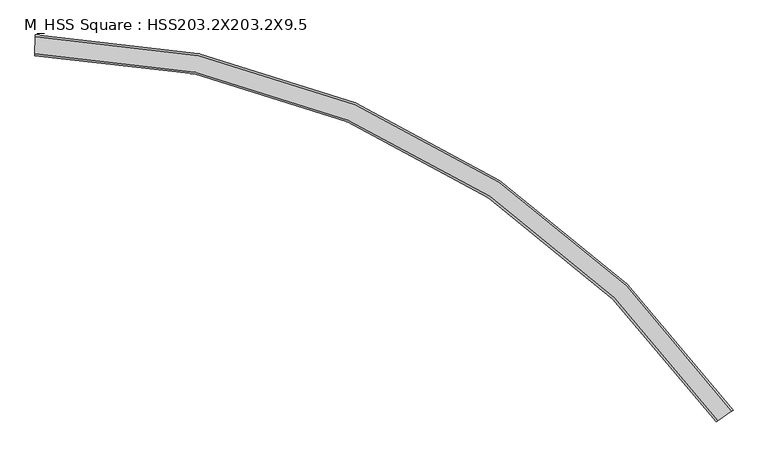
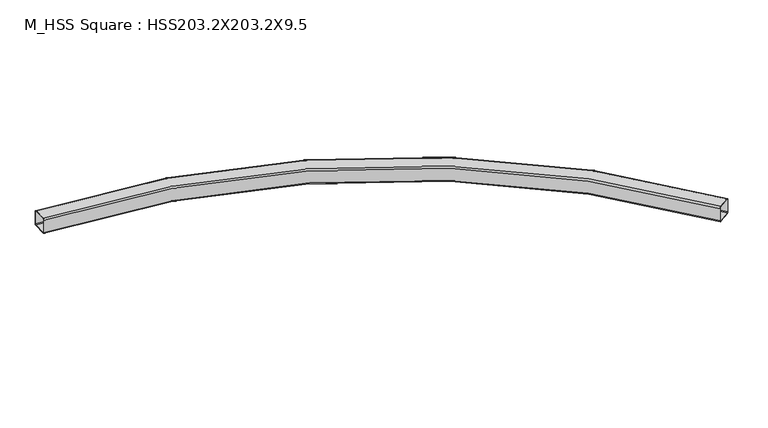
"""IFC4 building model written with IfcOpenShell, lengths in millimetres: beam geometry, M_HSS Square : HSS203.2X203.2X9.5."""

from ifc_helpers import new_model, si_unit, point, frame, origin, place, context, project, spatial, polyline, circle_curve, ellipse_curve, trimmed, source, transform, mapped, element, save
from ifc_brep_helpers import plane_surface, cylinder_surface, revolved_surface, advanced_brep


def m_hss_square_hss203_2x203_2x9_5_63507dff(model_context):
    return source(origin(), model_context, "Body", "AdvancedBrep", [
        advanced_brep(
        [(163.3933722, -103.1077059, 82.44), (163.7684169, -84.0513961, 101.5), (167.0127699, 80.7966811, 101.5), (167.3878146, 99.8529909, 82.44), (167.3878146, 99.8529909, -82.44), (167.0127699, 80.7966811, -101.5), (163.7684169, -84.0513961, -101.5), (163.3933722, -103.1077059, -82.44), (167.0127699, 80.7966811, 91.97), (163.7684169, -84.0513961, 91.97), (163.5808946, -93.579551, 82.44), (163.5808946, -93.579551, -82.44), (163.7684169, -84.0513961, -91.97), (167.0127699, 80.7966811, -91.97), (167.2002922, 90.324836, -82.44), (167.2002922, 90.324836, 82.44), (6834.7945176, -3689.5469851, 82.44), (6834.7945176, -3689.5469851, -82.44), (6850.482751, -3678.7228024, -101.5), (6986.1950242, -3585.0873747, -101.5), (7001.8832577, -3574.263192, -82.44), (7001.8832577, -3574.263192, 82.44), (6986.1950242, -3585.0873747, 101.5), (6850.482751, -3678.7228024, 101.5), (6986.1950242, -3585.0873747, 91.97), (6994.0391409, -3579.6752834, 82.44), (6994.0391409, -3579.6752834, -82.44), (6986.1950242, -3585.0873747, -91.97), (6850.482751, -3678.7228024, -91.97), (6842.6386343, -3684.1348938, -82.44), (6842.6386343, -3684.1348938, 82.44), (6850.482751, -3678.7228024, 91.97)],
        [
            (0, 1, circle_curve(frame((163.7684169, -84.0513961, 82.44), z_axis=(-0.9998063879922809, 0.019677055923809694, 0.0), x_axis=(0.019677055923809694, 0.9998063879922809, 0.0)), 19.06)),
            (1, 2),
            (2, 3, circle_curve(frame((167.0127699, 80.7966811, 82.44), z_axis=(-0.9998063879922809, 0.019677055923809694, 0.0), x_axis=(0.019677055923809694, 0.9998063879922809, 0.0)), 19.06)),
            (3, 4),
            (4, 5, circle_curve(frame((167.0127699, 80.7966811, -82.44), z_axis=(-0.9998063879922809, 0.019677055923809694, 0.0), x_axis=(0.019677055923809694, 0.9998063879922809, 0.0)), 19.06)),
            (5, 6),
            (6, 7, circle_curve(frame((163.7684169, -84.0513961, -82.44), z_axis=(-0.9998063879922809, 0.019677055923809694, 0.0), x_axis=(0.019677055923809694, 0.9998063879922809, 0.0)), 19.06)),
            (7, 0),
            (8, 9),
            (9, 10, circle_curve(frame((163.7684169, -84.0513961, 82.44), z_axis=(0.9998063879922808, -0.019677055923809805, 0.0), x_axis=(0.019677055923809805, 0.9998063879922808, 0.0)), 9.53)),
            (10, 11),
            (11, 12, circle_curve(frame((163.7684169, -84.0513961, -82.44), z_axis=(0.9998063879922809, -0.019677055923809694, 0.0), x_axis=(0.019677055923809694, 0.9998063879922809, 0.0)), 9.53)),
            (12, 13),
            (13, 14, circle_curve(frame((167.0127699, 80.7966811, -82.44), z_axis=(0.9998063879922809, -0.019677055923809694, 0.0), x_axis=(0.019677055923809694, 0.9998063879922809, 0.0)), 9.53)),
            (14, 15),
            (15, 8, circle_curve(frame((167.0127699, 80.7966811, 82.44), z_axis=(0.9998063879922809, -0.019677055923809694, 0.0), x_axis=(0.019677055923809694, 0.9998063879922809, 0.0)), 9.53)),
            (16, 17),
            (17, 18, circle_curve(frame((6850.482751, -3678.7228024, -82.44), z_axis=(0.5679004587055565, -0.8230972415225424, 0.0), x_axis=(0.8230972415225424, 0.5679004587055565, 0.0)), 19.06)),
            (18, 19),
            (19, 20, circle_curve(frame((6986.1950242, -3585.0873747, -82.44), z_axis=(0.5679004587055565, -0.8230972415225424, 0.0), x_axis=(0.8230972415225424, 0.5679004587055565, 0.0)), 19.06)),
            (20, 21),
            (21, 22, circle_curve(frame((6986.1950242, -3585.0873747, 82.44), z_axis=(0.5679004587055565, -0.8230972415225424, 0.0), x_axis=(0.8230972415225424, 0.5679004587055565, 0.0)), 19.06)),
            (22, 23),
            (23, 16, circle_curve(frame((6850.482751, -3678.7228024, 82.44), z_axis=(0.5679004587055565, -0.8230972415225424, 0.0), x_axis=(0.8230972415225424, 0.5679004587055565, 0.0)), 19.06)),
            (24, 25, circle_curve(frame((6986.1950242, -3585.0873747, 82.44), z_axis=(-0.5679004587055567, 0.8230972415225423, 0.0), x_axis=(0.8230972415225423, 0.5679004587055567, 0.0)), 9.53)),
            (25, 26),
            (26, 27, circle_curve(frame((6986.1950242, -3585.0873747, -82.44), z_axis=(-0.5679004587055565, 0.8230972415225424, 0.0), x_axis=(0.8230972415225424, 0.5679004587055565, 0.0)), 9.53)),
            (27, 28),
            (28, 29, circle_curve(frame((6850.482751, -3678.7228024, -82.44), z_axis=(-0.5679004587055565, 0.8230972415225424, 0.0), x_axis=(0.8230972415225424, 0.5679004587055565, 0.0)), 9.53)),
            (29, 30),
            (30, 31, circle_curve(frame((6850.482751, -3678.7228024, 82.44), z_axis=(-0.5679004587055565, 0.8230972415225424, 0.0), x_axis=(0.8230972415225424, 0.5679004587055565, 0.0)), 9.53)),
            (31, 24),
            (0, 16, circle_curve(frame((0.0, -8405.2509699, 82.44), z_axis=(0.0, 0.0, -1.0), x_axis=(-0.5530174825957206, 0.8331696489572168, 0.0)), 8303.7509699)),
            (23, 1, circle_curve(frame((0.0, -8405.2509699, 101.5), z_axis=(0.0, 0.0, 1.0), x_axis=(-0.5530174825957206, 0.8331696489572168, 0.0)), 8322.8109699)),
            (22, 2, circle_curve(frame((0.0, -8405.2509699, 101.5), z_axis=(0.0, 0.0, 1.0), x_axis=(-0.5530174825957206, 0.8331696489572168, 0.0)), 8487.6909699)),
            (21, 3, circle_curve(frame((0.0, -8405.2509699, 82.44), z_axis=(0.0, 0.0, 1.0), x_axis=(-0.5530174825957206, 0.8331696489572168, 0.0)), 8506.7509699)),
            (20, 4, circle_curve(frame((0.0, -8405.2509699, -82.44), z_axis=(0.0, 0.0, 1.0), x_axis=(-0.5530174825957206, 0.8331696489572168, 0.0)), 8506.7509699)),
            (19, 5, circle_curve(frame((0.0, -8405.2509699, -101.5), z_axis=(0.0, 0.0, 1.0), x_axis=(-0.5530174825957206, 0.8331696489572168, 0.0)), 8487.6909699)),
            (18, 6, circle_curve(frame((0.0, -8405.2509699, -101.5), z_axis=(0.0, 0.0, 1.0), x_axis=(-0.5530174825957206, 0.8331696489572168, 0.0)), 8322.8109699)),
            (17, 7, circle_curve(frame((0.0, -8405.2509699, -82.44), z_axis=(0.0, 0.0, 1.0), x_axis=(-0.5530174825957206, 0.8331696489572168, 0.0)), 8303.7509699)),
            (8, 24, circle_curve(frame((0.0, -8405.2509699, 91.97), z_axis=(0.0, 0.0, -1.0), x_axis=(-0.5530174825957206, 0.8331696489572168, 0.0)), 8487.6909699)),
            (31, 9, circle_curve(frame((0.0, -8405.2509699, 91.97), z_axis=(0.0, 0.0, 1.0), x_axis=(-0.5530174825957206, 0.8331696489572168, 0.0)), 8322.8109699)),
            (30, 10, circle_curve(frame((0.0, -8405.2509699, 82.44), z_axis=(0.0, 0.0, 1.0), x_axis=(-0.5530174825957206, 0.8331696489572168, 0.0)), 8313.2809699)),
            (29, 11, circle_curve(frame((0.0, -8405.2509699, -82.44), z_axis=(0.0, 0.0, 1.0), x_axis=(-0.5530174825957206, 0.8331696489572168, 0.0)), 8313.2809699)),
            (28, 12, circle_curve(frame((0.0, -8405.2509699, -91.97), z_axis=(0.0, 0.0, 1.0), x_axis=(-0.5530174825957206, 0.8331696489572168, 0.0)), 8322.8109699)),
            (27, 13, circle_curve(frame((0.0, -8405.2509699, -91.97), z_axis=(0.0, 0.0, 1.0), x_axis=(-0.5530174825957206, 0.8331696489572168, 0.0)), 8487.6909699)),
            (26, 14, circle_curve(frame((0.0, -8405.2509699, -82.44), z_axis=(0.0, 0.0, 1.0), x_axis=(-0.5530174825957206, 0.8331696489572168, 0.0)), 8497.2209699)),
            (25, 15, circle_curve(frame((0.0, -8405.2509699, 82.44), z_axis=(0.0, 0.0, 1.0), x_axis=(-0.5530174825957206, 0.8331696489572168, 0.0)), 8497.2209699)),
        ],
        [
            plane_surface(frame((165.3905934, -1.6273575, 0.0), z_axis=(-0.9998063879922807, 0.01967705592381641, 0.0), x_axis=(0.0, 0.0, 1.0))),
            plane_surface(frame((6918.3388876, -3631.9050886, 0.0), z_axis=(0.5679004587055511, -0.8230972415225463, 0.0), x_axis=(0.0, 0.0, 1.0))),
            revolved_surface(trimmed(ellipse_curve(frame((-4602.6599707, -1470.9374758, 82.44), z_axis=(-0.8331696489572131, -0.5530174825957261, 0.0), x_axis=(-0.5530174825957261, 0.8331696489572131, 0.0)), 19.06, 19.06), [point((-4592.1194575, -1486.8176893, 82.44))], [point((-4602.6599707, -1470.9374758, 101.5))], True, "CARTESIAN"), (0.0, -8405.2509699, 0.0), (0.0, 0.0, -1.0)),
            plane_surface(frame((0.0, -8405.2509699, 101.5), z_axis=(0.0, 0.0, 1.0), x_axis=(-0.5530174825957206, 0.8331696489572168, 0.0))),
            revolved_surface(trimmed(ellipse_curve(frame((-4693.8414932, -1333.5644641, 82.44), z_axis=(-0.8331696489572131, -0.5530174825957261, 0.0), x_axis=(-0.5530174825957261, 0.8331696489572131, 0.0)), 19.06, 19.06), [point((-4693.8414932, -1333.5644641, 101.5))], [point((-4704.3820065, -1317.6842505, 82.44))], True, "CARTESIAN"), (0.0, -8405.2509699, 0.0), (0.0, 0.0, -1.0)),
            cylinder_surface(frame((0.0, -8405.2509699, 0.0), z_axis=(0.0, 0.0, -1.0), x_axis=(-0.5530174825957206, 0.8331696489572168, 0.0)), 8506.7509699),
            revolved_surface(trimmed(ellipse_curve(frame((-4693.8414932, -1333.5644641, -82.44), z_axis=(-0.8331696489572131, -0.5530174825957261, 0.0), x_axis=(-0.5530174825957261, 0.8331696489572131, 0.0)), 19.06, 19.06), [point((-4704.3820065, -1317.6842505, -82.44))], [point((-4693.8414932, -1333.5644641, -101.5))], True, "CARTESIAN"), (0.0, -8405.2509699, 0.0), (0.0, 0.0, -1.0)),
            plane_surface(frame((0.0, -8405.2509699, -101.5), z_axis=(0.0, 0.0, -1.0), x_axis=(-0.5530174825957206, 0.8331696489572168, 0.0))),
            revolved_surface(trimmed(ellipse_curve(frame((-4602.6599707, -1470.9374758, -82.44), z_axis=(-0.8331696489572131, -0.5530174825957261, 0.0), x_axis=(-0.5530174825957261, 0.8331696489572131, 0.0)), 19.06, 19.06), [point((-4602.6599707, -1470.9374758, -101.5))], [point((-4592.1194575, -1486.8176893, -82.44))], True, "CARTESIAN"), (0.0, -8405.2509699, 0.0), (0.0, 0.0, -1.0)),
            revolved_surface(polyline([(-4592.119457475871, -1486.8176892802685, -82.44), (-4592.119457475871, -1486.8176892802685, 82.44)]), (0.0, -8405.2509699, 0.0), (0.0, 0.0, -1.0)),
            plane_surface(frame((0.0, -8405.2509699, 91.97), z_axis=(0.0, 0.0, -1.0), x_axis=(-0.5530174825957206, 0.8331696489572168, 0.0))),
            revolved_surface(trimmed(ellipse_curve(frame((-4602.6599707, -1470.9374758, 82.44), z_axis=(0.8331696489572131, 0.5530174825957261, 0.0), x_axis=(-0.5530174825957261, 0.8331696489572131, 0.0)), 9.53, 9.53), [point((-4602.6599707, -1470.9374758, 91.97))], [point((-4597.3897141, -1478.8775825, 82.44))], True, "CARTESIAN"), (0.0, -8405.2509699, 0.0), (0.0, 0.0, -1.0)),
            cylinder_surface(frame((0.0, -8405.2509699, 0.0), z_axis=(0.0, 0.0, -1.0), x_axis=(-0.5530174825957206, 0.8331696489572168, 0.0)), 8313.2809699),
            revolved_surface(trimmed(ellipse_curve(frame((-4602.6599707, -1470.9374758, -82.44), z_axis=(0.8331696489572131, 0.5530174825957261, 0.0), x_axis=(-0.5530174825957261, 0.8331696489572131, 0.0)), 9.53, 9.53), [point((-4597.3897141, -1478.8775825, -82.44))], [point((-4602.6599707, -1470.9374758, -91.97))], True, "CARTESIAN"), (0.0, -8405.2509699, 0.0), (0.0, 0.0, -1.0)),
            plane_surface(frame((0.0, -8405.2509699, -91.97), z_axis=(0.0, 0.0, 1.0), x_axis=(-0.5530174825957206, 0.8331696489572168, 0.0))),
            revolved_surface(trimmed(ellipse_curve(frame((-4693.8414932, -1333.5644641, -82.44), z_axis=(0.8331696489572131, 0.5530174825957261, 0.0), x_axis=(-0.5530174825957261, 0.8331696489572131, 0.0)), 9.53, 9.53), [point((-4693.8414932, -1333.5644641, -91.97))], [point((-4699.1117498, -1325.6243573, -82.44))], True, "CARTESIAN"), (0.0, -8405.2509699, 0.0), (0.0, 0.0, -1.0)),
            revolved_surface(polyline([(-4699.111749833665, -1325.6243572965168, -82.44), (-4699.111749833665, -1325.6243572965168, 82.44)]), (0.0, -8405.2509699, 0.0), (0.0, 0.0, -1.0)),
            revolved_surface(trimmed(ellipse_curve(frame((-4693.8414932, -1333.5644641, 82.44), z_axis=(0.8331696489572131, 0.5530174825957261, 0.0), x_axis=(-0.5530174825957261, 0.8331696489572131, 0.0)), 9.53, 9.53), [point((-4699.1117498, -1325.6243573, 82.44))], [point((-4693.8414932, -1333.5644641, 91.97))], True, "CARTESIAN"), (0.0, -8405.2509699, 0.0), (0.0, 0.0, -1.0)),
        ],
        [
            (0, [[1, 2, 3, 4, 5, 6, 7, 8], [9, 10, 11, 12, 13, 14, 15, 16]]),
            (1, [[17, 18, 19, 20, 21, 22, 23, 24], [25, 26, 27, 28, 29, 30, 31, 32]]),
            (2, [[-1, 33, -24, 34]]),
            (3, [[-2, -34, -23, 35]]),
            (4, [[-3, -35, -22, 36]]),
            (5, [[-4, -36, -21, 37]]),
            (6, [[-5, -37, -20, 38]]),
            (7, [[-6, -38, -19, 39]]),
            (8, [[-7, -39, -18, 40]]),
            (9, [[-8, -40, -17, -33]]),
            (10, [[-9, 41, -32, 42]]),
            (11, [[-10, -42, -31, 43]]),
            (12, [[-11, -43, -30, 44]]),
            (13, [[-12, -44, -29, 45]]),
            (14, [[-13, -45, -28, 46]]),
            (15, [[-14, -46, -27, 47]]),
            (16, [[-15, -47, -26, 48]]),
            (17, [[-16, -48, -25, -41]]),
        ],
    ),
    ])


if __name__ == "__main__":
    model = new_model("IFC4")
    model_context = context("Model", 3, world=origin())
    ifc_project = project(units=[si_unit("LENGTHUNIT", "METRE", prefix="MILLI")], contexts=[model_context])
    site = spatial("IfcSite", under=ifc_project)
    building = spatial("IfcBuilding", under=site)
    placement = place(None, origin())
    m_hss_square_hss203_2x203_2x9_5_shape = m_hss_square_hss203_2x203_2x9_5_63507dff(model_context)
    element("IfcBeam", 1, ObjectType="M_HSS Square : HSS203.2X203.2X9.5", at=placement, inside=building, context=model_context, shape_type="MappedRepresentation", body=[
        mapped(m_hss_square_hss203_2x203_2x9_5_shape, transform((0.0, 0.0, 0.0), x_axis=(1.0, 0.0, 0.0), y_axis=(0.0, 1.0, 0.0), z_axis=(0.0, 0.0, 1.0))),
    ])
    save(model, "model.ifc")
